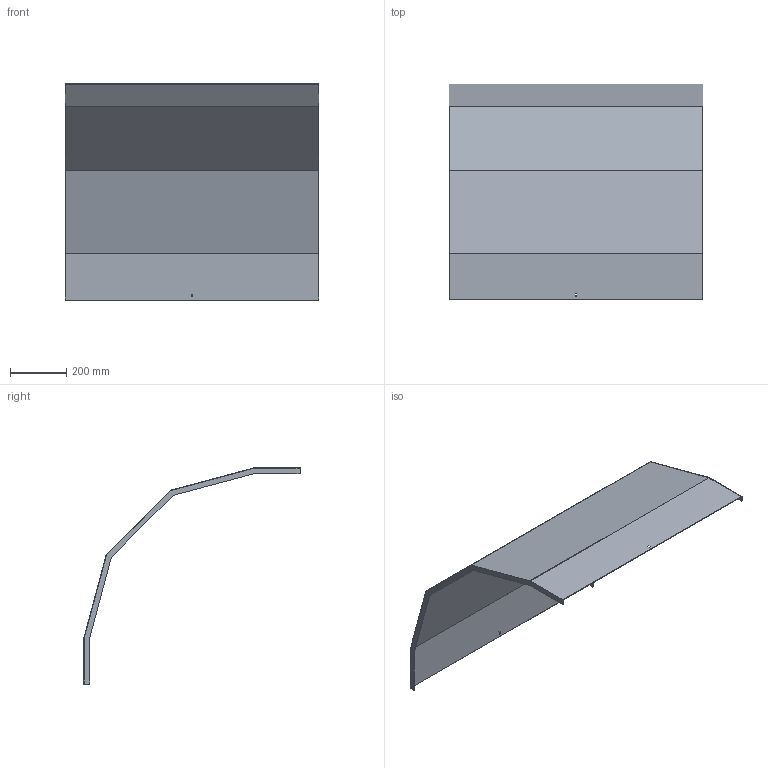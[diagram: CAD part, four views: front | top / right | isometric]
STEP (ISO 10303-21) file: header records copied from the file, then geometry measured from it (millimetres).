
FILE_DESCRIPTION (( 'STEP AP214' ), '1' );
FILE_NAME ('33N5D900.step', '2025-02-21T10:43:39', ( '' ), ( '' ), 'SwSTEP 2.0', 'SolidWorks 2023', '' );
FILE_SCHEMA (( 'AUTOMOTIVE_DESIGN' ));
Length unit declared in the file: millimetre
Products named in the file (1): 33N5D900
Bounding box: 903 x 769.82 x 769.82 mm (x, y, z)
Volume: 1785082.1 mm3; surface area: 2386734.1 mm2
Topology: 1 solids, 1 shells, 34 faces, 96 edges, 64 vertices
Faces by surface type: plane 34
Entity records: 1111 total; most frequent: CARTESIAN_POINT 195, ORIENTED_EDGE 192, DIRECTION 166, LINE 96, EDGE_CURVE 96, VECTOR 96, VERTEX_POINT 64, EDGE_LOOP 38
